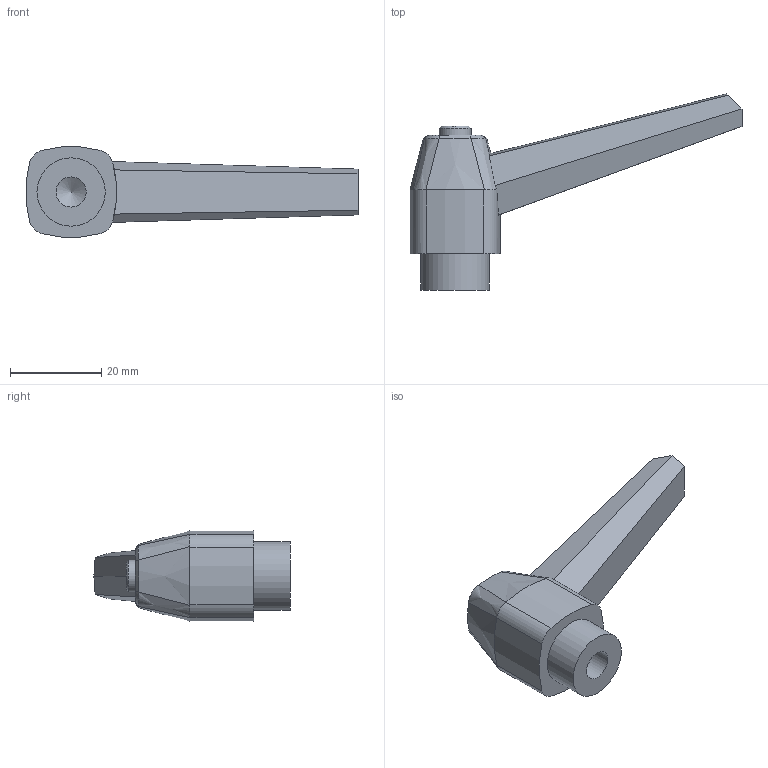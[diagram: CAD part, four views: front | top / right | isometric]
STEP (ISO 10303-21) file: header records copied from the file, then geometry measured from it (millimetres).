
FILE_DESCRIPTION (( 'STEP AP214' ), '1' );
FILE_NAME ('500-63-M8-SW.step', '2022-04-13T07:18:38', ( '' ), ( '' ), 'SwSTEP 2.0', 'SolidWorks 2019', '' );
FILE_SCHEMA (( 'AUTOMOTIVE_DESIGN' ));
Length unit declared in the file: millimetre
Products named in the file (1): 500-63-M8-SW
Bounding box: 72.91 x 43.09 x 19.81 mm (x, y, z)
Volume: 14873.4 mm3; surface area: 5080.9 mm2
Topology: 1 solids, 1 shells, 53 faces, 129 edges, 82 vertices
Faces by surface type: plane 21, cone 12, cylinder 12, bspline 8
Full cylindrical faces by diameter (mm): 6.6 x1, 7 x1, 8 x1, 15 x1
Entity records: 2018 total; most frequent: CARTESIAN_POINT 889, ORIENTED_EDGE 244, DIRECTION 182, EDGE_CURVE 122, VERTEX_POINT 81, AXIS2_PLACEMENT_3D 74, EDGE_LOOP 63, FACE_OUTER_BOUND 57
